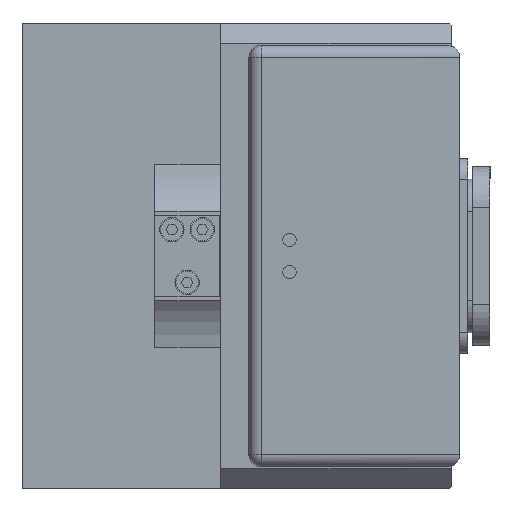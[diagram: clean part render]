
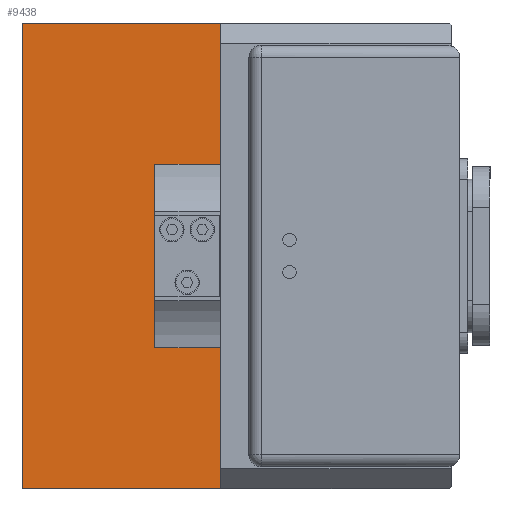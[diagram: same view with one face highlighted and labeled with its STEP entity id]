
A CAD part, left-side view. The second image highlights one B-rep face of the part: STEP entity #9438.
In plain terms, the highlighted planar face has unit normal (-1, 0, 0).
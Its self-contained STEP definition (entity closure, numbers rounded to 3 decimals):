
#472=PLANE('',#10438);
#977=LINE('',#14953,#1960);
#1054=LINE('',#15136,#2037);
#1056=LINE('',#15143,#2039);
#1059=LINE('',#15149,#2042);
#1060=LINE('',#15151,#2043);
#1061=LINE('',#15152,#2044);
#1062=LINE('',#15154,#2045);
#1063=LINE('',#15155,#2046);
#1960=VECTOR('',#11914,1000.);
#2037=VECTOR('',#12049,1000.);
#2039=VECTOR('',#12055,1000.);
#2042=VECTOR('',#12060,1000.);
#2043=VECTOR('',#12061,1000.);
#2044=VECTOR('',#12062,1000.);
#2045=VECTOR('',#12063,1000.);
#2046=VECTOR('',#12064,1000.);
#3082=FACE_OUTER_BOUND('',#3742,.T.);
#3742=EDGE_LOOP('',(#7594,#7595,#7596,#7597,#7598,#7599,#7600,#7601));
#4775=VERTEX_POINT('',#14950);
#4776=VERTEX_POINT('',#14952);
#4852=VERTEX_POINT('',#15133);
#4853=VERTEX_POINT('',#15135);
#4856=VERTEX_POINT('',#15141);
#4858=VERTEX_POINT('',#15148);
#4859=VERTEX_POINT('',#15150);
#4860=VERTEX_POINT('',#15153);
#5791=EDGE_CURVE('',#4776,#4775,#977,.T.);
#5883=EDGE_CURVE('',#4852,#4853,#1054,.T.);
#5887=EDGE_CURVE('',#4856,#4775,#1056,.T.);
#5890=EDGE_CURVE('',#4856,#4858,#1059,.T.);
#5891=EDGE_CURVE('',#4858,#4859,#1060,.T.);
#5892=EDGE_CURVE('',#4859,#4853,#1061,.T.);
#5893=EDGE_CURVE('',#4852,#4860,#1062,.T.);
#5894=EDGE_CURVE('',#4860,#4776,#1063,.T.);
#7594=ORIENTED_EDGE('',*,*,#5890,.T.);
#7595=ORIENTED_EDGE('',*,*,#5891,.T.);
#7596=ORIENTED_EDGE('',*,*,#5892,.T.);
#7597=ORIENTED_EDGE('',*,*,#5883,.F.);
#7598=ORIENTED_EDGE('',*,*,#5893,.T.);
#7599=ORIENTED_EDGE('',*,*,#5894,.T.);
#7600=ORIENTED_EDGE('',*,*,#5791,.T.);
#7601=ORIENTED_EDGE('',*,*,#5887,.F.);
#9438=ADVANCED_FACE('',(#3082),#472,.T.);
#10438=AXIS2_PLACEMENT_3D('',#15147,#12058,#12059);
#11914=DIRECTION('',(0.,1.,0.));
#12049=DIRECTION('',(0.,0.,1.));
#12055=DIRECTION('',(0.,0.,1.));
#12058=DIRECTION('center_axis',(-1.,0.,0.));
#12059=DIRECTION('ref_axis',(0.,0.,1.));
#12060=DIRECTION('',(0.,-1.,0.));
#12061=DIRECTION('',(0.,0.,-1.));
#12062=DIRECTION('',(0.,1.,0.));
#12063=DIRECTION('',(0.,-1.,0.));
#12064=DIRECTION('',(0.,0.,1.));
#14950=CARTESIAN_POINT('',(-93.,49.,57.5));
#14952=CARTESIAN_POINT('',(-93.,0.,57.5));
#14953=CARTESIAN_POINT('',(-93.,106.,57.5));
#15133=CARTESIAN_POINT('',(-93.,49.,-57.5));
#15135=CARTESIAN_POINT('',(-93.,49.,-22.619));
#15136=CARTESIAN_POINT('',(-93.,49.,57.5));
#15141=CARTESIAN_POINT('',(-93.,49.,22.619));
#15143=CARTESIAN_POINT('',(-93.,49.,57.5));
#15147=CARTESIAN_POINT('Origin',(-93.,0.,57.5));
#15148=CARTESIAN_POINT('',(-93.,32.75,22.619));
#15149=CARTESIAN_POINT('',(-93.,0.,22.619));
#15150=CARTESIAN_POINT('',(-93.,32.75,-22.619));
#15151=CARTESIAN_POINT('',(-93.,32.75,57.5));
#15152=CARTESIAN_POINT('',(-93.,0.,-22.619));
#15153=CARTESIAN_POINT('',(-93.,0.,-57.5));
#15154=CARTESIAN_POINT('',(-93.,0.,-57.5));
#15155=CARTESIAN_POINT('',(-93.,0.,57.5));
